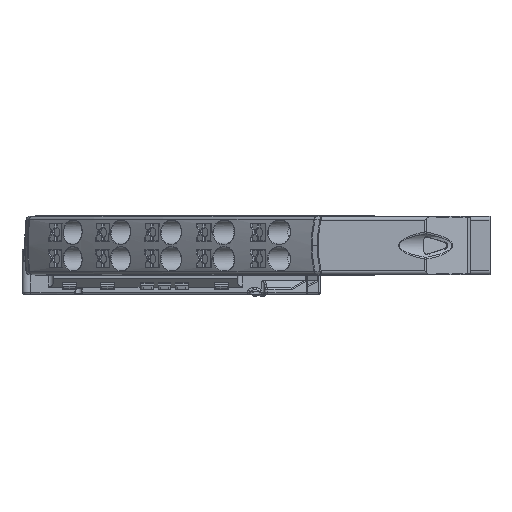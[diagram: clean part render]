
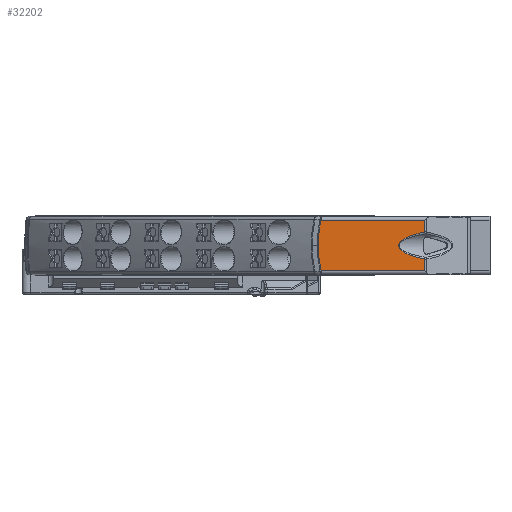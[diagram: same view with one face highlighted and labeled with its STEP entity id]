
A CAD part, left-side view. The second image highlights one B-rep face of the part: STEP entity #32202.
In plain terms, the highlighted planar face has unit normal (-1, 0, 0).
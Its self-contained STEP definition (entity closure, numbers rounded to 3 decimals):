
#733=CARTESIAN_POINT('',(-40.,7.214,-2.88));
#734=CARTESIAN_POINT('',(-40.,7.408,-2.843));
#735=CARTESIAN_POINT('',(-40.,7.779,-2.768));
#736=CARTESIAN_POINT('',(-40.,8.286,-2.654));
#737=CARTESIAN_POINT('',(-40.,8.749,-2.538));
#738=CARTESIAN_POINT('',(-40.,9.172,-2.422));
#739=CARTESIAN_POINT('',(-40.,9.554,-2.307));
#740=CARTESIAN_POINT('',(-40.,9.898,-2.194));
#741=CARTESIAN_POINT('',(-40.,10.209,-2.083));
#742=CARTESIAN_POINT('',(-40.,10.489,-1.974));
#743=CARTESIAN_POINT('',(-40.,10.739,-1.869));
#744=CARTESIAN_POINT('',(-40.,10.964,-1.767));
#745=CARTESIAN_POINT('',(-40.,11.165,-1.668));
#746=CARTESIAN_POINT('',(-40.,11.345,-1.573));
#747=CARTESIAN_POINT('',(-40.,11.505,-1.482));
#748=CARTESIAN_POINT('',(-40.,11.649,-1.394));
#749=CARTESIAN_POINT('',(-40.,11.778,-1.309));
#750=CARTESIAN_POINT('',(-40.,11.893,-1.227));
#751=CARTESIAN_POINT('',(-40.,11.996,-1.149));
#752=CARTESIAN_POINT('',(-40.,12.087,-1.073));
#753=CARTESIAN_POINT('',(-40.,12.169,-1.001));
#754=CARTESIAN_POINT('',(-40.,12.242,-0.931));
#755=CARTESIAN_POINT('',(-40.,12.306,-0.864));
#756=CARTESIAN_POINT('',(-40.,12.364,-0.799));
#757=CARTESIAN_POINT('',(-40.,12.414,-0.736));
#758=CARTESIAN_POINT('',(-40.,12.46,-0.676));
#759=CARTESIAN_POINT('',(-40.,12.5,-0.617));
#760=CARTESIAN_POINT('',(-40.,12.535,-0.56));
#761=CARTESIAN_POINT('',(-40.,12.566,-0.504));
#762=CARTESIAN_POINT('',(-40.,12.593,-0.45));
#763=CARTESIAN_POINT('',(-40.,12.616,-0.397));
#764=CARTESIAN_POINT('',(-40.,12.637,-0.345));
#765=CARTESIAN_POINT('',(-40.,12.653,-0.294));
#766=CARTESIAN_POINT('',(-40.,12.667,-0.244));
#767=CARTESIAN_POINT('',(-40.,12.679,-0.194));
#768=CARTESIAN_POINT('',(-40.,12.687,-0.145));
#769=CARTESIAN_POINT('',(-40.,12.693,-0.096));
#770=CARTESIAN_POINT('',(-40.,12.697,-0.048));
#771=CARTESIAN_POINT('',(-40.,12.698,0.));
#772=CARTESIAN_POINT('',(-40.,12.697,0.048));
#773=CARTESIAN_POINT('',(-40.,12.693,0.097));
#774=CARTESIAN_POINT('',(-40.,12.687,0.145));
#775=CARTESIAN_POINT('',(-40.,12.679,0.195));
#776=CARTESIAN_POINT('',(-40.,12.667,0.244));
#777=CARTESIAN_POINT('',(-40.,12.653,0.294));
#778=CARTESIAN_POINT('',(-40.,12.636,0.345));
#779=CARTESIAN_POINT('',(-40.,12.616,0.397));
#780=CARTESIAN_POINT('',(-40.,12.593,0.45));
#781=CARTESIAN_POINT('',(-40.,12.566,0.505));
#782=CARTESIAN_POINT('',(-40.,12.535,0.56));
#783=CARTESIAN_POINT('',(-40.,12.499,0.618));
#784=CARTESIAN_POINT('',(-40.,12.459,0.677));
#785=CARTESIAN_POINT('',(-40.,12.414,0.737));
#786=CARTESIAN_POINT('',(-40.,12.363,0.8));
#787=CARTESIAN_POINT('',(-40.,12.305,0.865));
#788=CARTESIAN_POINT('',(-40.,12.24,0.932));
#789=CARTESIAN_POINT('',(-40.,12.168,1.001));
#790=CARTESIAN_POINT('',(-40.,12.087,1.074));
#791=CARTESIAN_POINT('',(-40.,11.995,1.149));
#792=CARTESIAN_POINT('',(-40.,11.893,1.227));
#793=CARTESIAN_POINT('',(-40.,11.779,1.308));
#794=CARTESIAN_POINT('',(-40.,11.651,1.393));
#795=CARTESIAN_POINT('',(-40.,11.507,1.481));
#796=CARTESIAN_POINT('',(-40.,11.347,1.572));
#797=CARTESIAN_POINT('',(-40.,11.167,1.667));
#798=CARTESIAN_POINT('',(-40.,10.965,1.766));
#799=CARTESIAN_POINT('',(-40.,10.74,1.868));
#800=CARTESIAN_POINT('',(-40.,10.49,1.974));
#801=CARTESIAN_POINT('',(-40.,10.211,2.082));
#802=CARTESIAN_POINT('',(-40.,9.9,2.193));
#803=CARTESIAN_POINT('',(-40.,9.554,2.307));
#804=CARTESIAN_POINT('',(-40.,9.172,2.422));
#805=CARTESIAN_POINT('',(-40.,8.749,2.538));
#806=CARTESIAN_POINT('',(-40.,8.286,2.654));
#807=CARTESIAN_POINT('',(-40.,7.779,2.768));
#808=CARTESIAN_POINT('',(-40.,7.408,2.843));
#809=CARTESIAN_POINT('',(-40.,7.214,2.88));
#811=CARTESIAN_POINT('',(-40.,7.214,2.88));
#829=CARTESIAN_POINT('',(-40.,7.214,-2.88));
#960=DIRECTION('',(0.,0.,1.));
#961=VECTOR('',#960,2.47);
#962=CARTESIAN_POINT('',(-40.,7.214,2.88));
#963=LINE('',#962,#961);
#968=CARTESIAN_POINT('',(-40.,29.046,-5.35));
#969=CARTESIAN_POINT('',(-40.,29.125,-4.999));
#970=CARTESIAN_POINT('',(-40.,29.267,-4.294));
#971=CARTESIAN_POINT('',(-40.,29.434,-3.228));
#972=CARTESIAN_POINT('',(-40.,29.553,-2.156));
#973=CARTESIAN_POINT('',(-40.,29.625,-1.079));
#974=CARTESIAN_POINT('',(-40.,29.642,
-0.36));
#975=CARTESIAN_POINT('',(-40.,29.642,
0.));
#977=CARTESIAN_POINT('',(-40.,29.642,
0.));
#978=CARTESIAN_POINT('',(-40.,29.642,0.36));
#979=CARTESIAN_POINT('',(-40.,29.625,1.079));
#980=CARTESIAN_POINT('',(-40.,29.553,2.155));
#981=CARTESIAN_POINT('',(-40.,29.434,3.228));
#982=CARTESIAN_POINT('',(-40.,29.267,4.294));
#983=CARTESIAN_POINT('',(-40.,29.125,4.999));
#984=CARTESIAN_POINT('',(-40.,29.046,5.35));
#1007=DIRECTION('',(0.,1.,0.));
#1008=VECTOR('',#1007,21.831);
#1009=CARTESIAN_POINT('',(-40.,7.214,5.35));
#1010=LINE('',#1009,#1008);
#12993=DIRECTION('',(0.,-1.,0.));
#12994=VECTOR('',#12993,21.831);
#12995=CARTESIAN_POINT('',(-40.,29.046,
-5.35));
#12996=LINE('',#12995,#12994);
#13027=DIRECTION('',(0.,0.,1.));
#13028=VECTOR('',#13027,2.47);
#13029=CARTESIAN_POINT('',(-40.,7.214,-5.35));
#13030=LINE('',#13029,#13028);
#24982=VERTEX_POINT('',#811);
#24984=VERTEX_POINT('',#829);
#25022=CARTESIAN_POINT('',(-40.,7.214,5.35));
#25023=VERTEX_POINT('',#25022);
#25024=CARTESIAN_POINT('',(-40.,29.046,
5.35));
#25025=VERTEX_POINT('',#25024);
#25026=CARTESIAN_POINT('',(-40.,7.214,-5.35));
#25027=VERTEX_POINT('',#25026);
#25028=CARTESIAN_POINT('',(-40.,29.046,
-5.35));
#25029=VERTEX_POINT('',#25028);
#25030=VERTEX_POINT('',#975);
#32183=CARTESIAN_POINT('',(-40.,91.5,-6.15));
#32184=DIRECTION('',(-1.,0.,0.));
#32185=DIRECTION('',(0.,-1.,0.));
#32186=AXIS2_PLACEMENT_3D('',#32183,#32184,#32185);
#32187=PLANE('',#32186);
#32189=ORIENTED_EDGE('',*,*,#32188,.F.);
#32190=ORIENTED_EDGE('',*,*,#32175,.F.);
#32191=ORIENTED_EDGE('',*,*,#31799,.F.);
#32193=ORIENTED_EDGE('',*,*,#32192,.F.);
#32195=ORIENTED_EDGE('',*,*,#32194,.F.);
#32197=ORIENTED_EDGE('',*,*,#32196,.T.);
#32199=ORIENTED_EDGE('',*,*,#32198,.T.);
#32200=EDGE_LOOP('',(#32189,#32190,#32191,#32193,#32195,#32197,#32199));
#32201=FACE_OUTER_BOUND('',#32200,.F.);
#810=B_SPLINE_CURVE_WITH_KNOTS('',3,(#733,#734,#735,#736,#737,#738,#739,#740,
#741,#742,#743,#744,#745,#746,#747,#748,#749,#750,#751,#752,#753,#754,#755,#756,
#757,#758,#759,#760,#761,#762,#763,#764,#765,#766,#767,#768,#769,#770,#771,#772,
#773,#774,#775,#776,#777,#778,#779,#780,#781,#782,#783,#784,#785,#786,#787,#788,
#789,#790,#791,#792,#793,#794,#795,#796,#797,#798,#799,#800,#801,#802,#803,#804,
#805,#806,#807,#808,#809),.UNSPECIFIED.,.F.,.F.,(4,1,1,1,1,1,1,1,1,1,1,1,1,1,1,
1,1,1,1,1,1,1,1,1,1,1,1,1,1,1,1,1,1,1,1,1,1,1,1,1,1,1,1,1,1,1,1,1,1,1,1,1,1,1,1,
1,1,1,1,1,1,1,1,1,1,1,1,1,1,1,1,1,1,1,4),(0.,0.014,
0.027,0.041,0.054,0.068,
0.081,0.095,0.108,0.122,
0.135,0.149,0.162,0.176,
0.189,0.203,0.216,0.23,
0.243,0.257,0.27,0.284,
0.297,0.311,0.324,0.338,
0.351,0.365,0.378,0.392,
0.405,0.419,0.432,0.446,
0.459,0.473,0.486,0.5,0.514,
0.527,0.541,0.554,0.568,
0.581,0.595,0.608,0.622,
0.635,0.649,0.662,0.676,
0.689,0.703,0.716,0.73,
0.743,0.757,0.77,0.784,
0.797,0.811,0.824,0.838,
0.851,0.865,0.878,0.892,
0.905,0.919,0.932,0.946,
0.959,0.973,0.986,1.),.UNSPECIFIED.);
#976=B_SPLINE_CURVE_WITH_KNOTS('',3,(#968,#969,#970,#971,#972,#973,#974,#975),
.UNSPECIFIED.,.F.,.F.,(4,1,1,1,1,4),(0.,0.2,0.4,0.6,0.8,1.),
.UNSPECIFIED.);
#985=B_SPLINE_CURVE_WITH_KNOTS('',3,(#977,#978,#979,#980,#981,#982,#983,#984),
.UNSPECIFIED.,.F.,.F.,(4,1,1,1,1,4),(0.,0.2,0.4,0.6,0.8,1.),
.UNSPECIFIED.);
#31799=EDGE_CURVE('',#24984,#24982,#810,.T.);
#32175=EDGE_CURVE('',#24982,#25023,#963,.T.);
#32188=EDGE_CURVE('',#25023,#25025,#1010,.T.);
#32192=EDGE_CURVE('',#25027,#24984,#13030,.T.);
#32194=EDGE_CURVE('',#25029,#25027,#12996,.T.);
#32196=EDGE_CURVE('',#25029,#25030,#976,.T.);
#32198=EDGE_CURVE('',#25030,#25025,#985,.T.);
#32202=ADVANCED_FACE('',(#32201),#32187,.T.);
